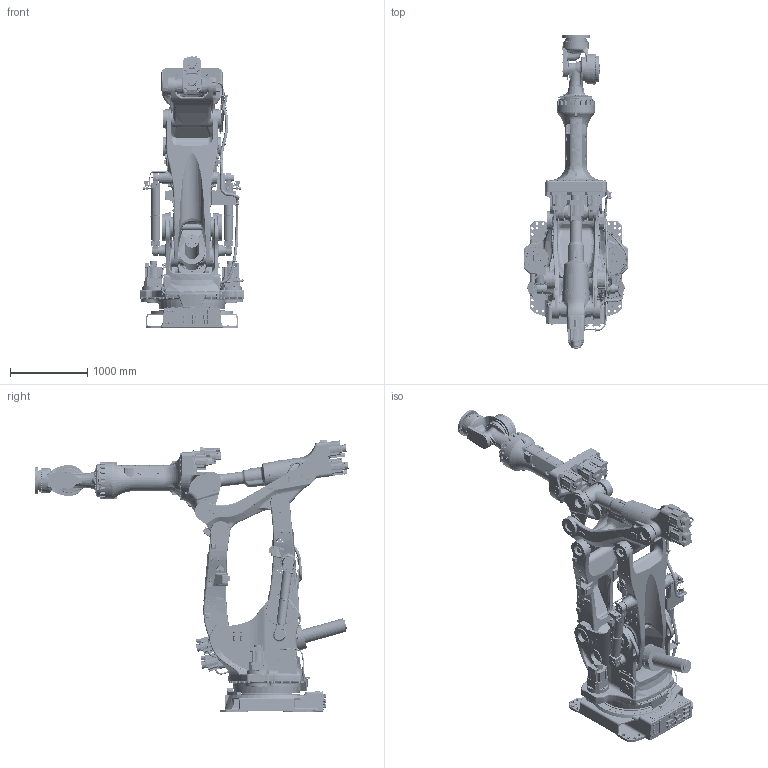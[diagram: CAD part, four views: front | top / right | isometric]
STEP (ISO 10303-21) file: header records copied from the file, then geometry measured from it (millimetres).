
FILE_DESCRIPTION(('CATIA V5 STEP Exchange','CAx-IF Rec.Pracs.--- Composite Materials ---3.4---2017-06-13'),'2;1');
FILE_NAME('D:\モデリング\☆☆☆STEP\MG\MG15HL-B001_RARAS_220217\軽量化\Part\新しいフォルダー\11_MG15HL-B001.stp','2022-02-25T02:10:34+00:00',('none'),('none'),'CATIA Version 5-6 Release 2020 SP4 HF11','CATIA V5 STEP AP203 v2','none');
FILE_SCHEMA(('CONFIG_CONTROL_DESIGN'));
Length unit declared in the file: millimetre
Products named in the file (1): MG15HL-B001
Assembly tree (15 placements, depth 2):
  MG15HL-B001
    #57
    #82194
    #183682
    #224100
    #304593
    #326981
    #355107
    #362039
    #440959
    #499522
    #525163
    #545605
    #567085
    #591206
    #607179
Bounding box: 1349.16 x 4052.57 x 3529.55 mm (x, y, z)
Volume: 1479267870.3 mm3; surface area: 46933253.1 mm2
Topology: 72 solids, 76 shells, 16919 faces, 42826 edges, 27476 vertices
Faces by surface type: plane 6829, cylinder 6637, bspline 1284, cone 957, extrusion 535, torus 516, revolution 107, sphere 54
Entity records: 638672 total; most frequent: CARTESIAN_POINT 274903, ORIENTED_EDGE 84628, DIRECTION 54280, EDGE_CURVE 42314, VERTEX_POINT 27476, AXIS2_PLACEMENT_3D 23789, VECTOR 20457, LINE 19922
